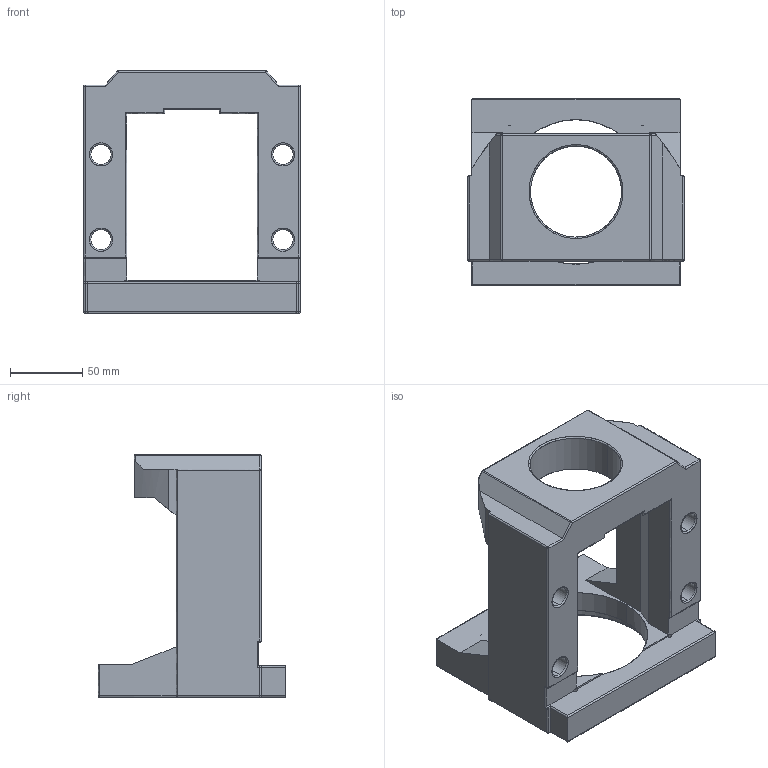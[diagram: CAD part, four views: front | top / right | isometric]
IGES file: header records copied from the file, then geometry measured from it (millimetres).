
Start section: SolidWorks IGES file using analytic representation for surfaces
Bounding box: 150 x 130 x 168 mm (x, y, z)
Surface area: 124678.6 mm2 (no closed solid volume)
Topology: 0 solids, 0 shells, 211 faces, 2606 edges, 2578 vertices
Faces by surface type: revolution 145, bspline 66
